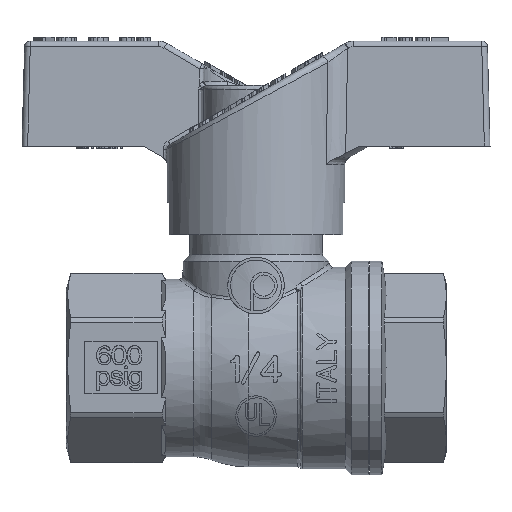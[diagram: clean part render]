
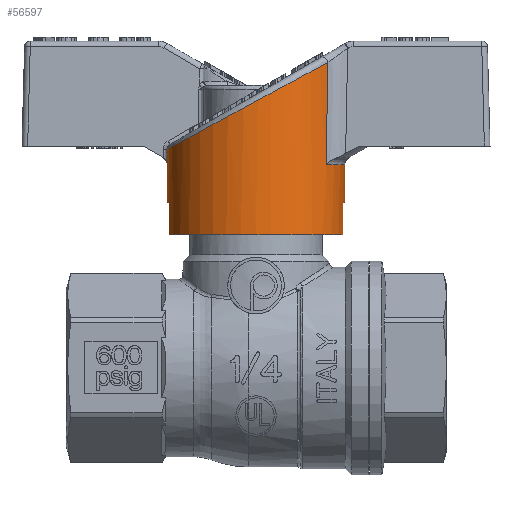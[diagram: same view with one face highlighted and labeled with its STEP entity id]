
A CAD part, top view. The second image highlights one B-rep face of the part: STEP entity #56597.
In plain terms, the highlighted cylindrical face has radius 11 mm (diameter 22 mm), a partial arc.
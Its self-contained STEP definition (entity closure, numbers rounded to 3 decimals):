
#45747=CARTESIAN_POINT('',(0.,8.691,0.));
#45748=DIRECTION('',(0.,-1.,0.));
#45749=DIRECTION('',(-1.,0.,0.));
#45750=AXIS2_PLACEMENT_3D('',#45747,#45748,#45749);
#45752=DIRECTION('',(0.,-1.,0.));
#45753=VECTOR('',#45752,4.691);
#45754=CARTESIAN_POINT('',(-11.,8.691,0.));
#45755=LINE('',#45754,#45753);
#45756=CARTESIAN_POINT('',(0.,4.,0.));
#45757=DIRECTION('',(0.,1.,0.));
#45758=DIRECTION('',(-0.979,0.,-0.205));
#45759=AXIS2_PLACEMENT_3D('',#45756,#45757,#45758);
#45761=DIRECTION('',(0.,1.,0.));
#45762=VECTOR('',#45761,4.);
#45763=CARTESIAN_POINT('',(-10.767,0.,-2.253));
#45764=LINE('',#45763,#45762);
#45765=DIRECTION('',(0.,1.,0.));
#45766=VECTOR('',#45765,4.);
#45767=CARTESIAN_POINT('',(10.767,0.,-2.25));
#45768=LINE('',#45767,#45766);
#45769=CARTESIAN_POINT('',(0.,4.,0.));
#45770=DIRECTION('',(0.,1.,0.));
#45771=DIRECTION('',(1.,0.,0.));
#45772=AXIS2_PLACEMENT_3D('',#45769,#45770,#45771);
#45774=DIRECTION('',(0.,-1.,0.));
#45775=VECTOR('',#45774,4.691);
#45776=CARTESIAN_POINT('',(11.,8.691,0.));
#45777=LINE('',#45776,#45775);
#45778=CARTESIAN_POINT('',(0.,8.691,0.));
#45779=DIRECTION('',(0.,-1.,0.));
#45780=DIRECTION('',(0.999,0.,-0.049));
#45781=AXIS2_PLACEMENT_3D('',#45778,#45779,#45780);
#45783=CARTESIAN_POINT('',(10.989,10.602,
-0.488));
#45784=CARTESIAN_POINT('',(10.975,10.609,
-0.804));
#45785=CARTESIAN_POINT('',(10.92,10.639,
-1.42));
#45786=CARTESIAN_POINT('',(10.774,10.718,
-2.274));
#45787=CARTESIAN_POINT('',(10.563,10.832,
-3.112));
#45788=CARTESIAN_POINT('',(10.284,10.983,
-3.935));
#45789=CARTESIAN_POINT('',(9.944,11.167,
-4.729));
#45790=CARTESIAN_POINT('',(9.549,11.38,
-5.483));
#45791=CARTESIAN_POINT('',(9.102,11.622,
-6.196));
#45792=CARTESIAN_POINT('',(8.596,11.896,
-6.882));
#45793=CARTESIAN_POINT('',(8.008,12.213,
-7.56));
#45794=CARTESIAN_POINT('',(7.308,12.592,-8.243));
#45795=CARTESIAN_POINT('',(6.458,13.052,
-8.93));
#45796=CARTESIAN_POINT('',(5.426,13.609,
-9.598));
#45797=CARTESIAN_POINT('',(4.18,14.283,
-10.21));
#45798=CARTESIAN_POINT('',(2.722,15.071,
-10.697));
#45799=CARTESIAN_POINT('',(1.141,15.926,
-10.98));
#45800=CARTESIAN_POINT('',(-0.425,16.772,
-11.027));
#45801=CARTESIAN_POINT('',(-1.882,17.56,
-10.868));
#45802=CARTESIAN_POINT('',(-3.179,18.261,
-10.556));
#45803=CARTESIAN_POINT('',(-4.307,18.871,
-10.143));
#45804=CARTESIAN_POINT('',(-5.282,19.398,
-9.667));
#45805=CARTESIAN_POINT('',(-6.131,19.857,
-9.149));
#45806=CARTESIAN_POINT('',(-6.86,20.251,
-8.613));
#45807=CARTESIAN_POINT('',(-7.525,20.611,
-8.04));
#45808=CARTESIAN_POINT('',(-8.193,20.972,
-7.364));
#45809=CARTESIAN_POINT('',(-8.665,21.227,-6.787));
#45810=CARTESIAN_POINT('',(-8.899,21.353,
-6.466));
#45850=CARTESIAN_POINT('',(0.,0.,0.));
#45851=DIRECTION('',(0.,-1.,0.));
#45852=DIRECTION('',(-0.979,0.,-0.205));
#45853=AXIS2_PLACEMENT_3D('',#45850,#45851,#45852);
#47749=CARTESIAN_POINT('',(-8.703,8.691,
-6.727));
#47750=CARTESIAN_POINT('',(-8.726,10.082,
-6.698));
#47751=CARTESIAN_POINT('',(-8.769,12.875,
-6.641));
#47752=CARTESIAN_POINT('',(-8.835,17.095,
-6.554));
#47753=CARTESIAN_POINT('',(-8.877,19.93,
-6.496));
#47754=CARTESIAN_POINT('',(-8.899,21.353,
-6.466));
#48905=CARTESIAN_POINT('',(10.989,10.602,
-0.488));
#48906=CARTESIAN_POINT('',(10.989,10.389,
-0.494));
#48907=CARTESIAN_POINT('',(10.988,9.964,
-0.504));
#48908=CARTESIAN_POINT('',(10.988,9.327,
-0.52));
#48909=CARTESIAN_POINT('',(10.987,8.903,
-0.531));
#48910=CARTESIAN_POINT('',(10.987,8.691,
-0.536));
#54862=CARTESIAN_POINT('',(-11.,4.,0.));
#54864=VERTEX_POINT('',#54862);
#54875=CARTESIAN_POINT('',(10.767,0.,-2.25));
#54877=VERTEX_POINT('',#54875);
#54878=CARTESIAN_POINT('',(-10.767,0.,-2.253));
#54880=VERTEX_POINT('',#54878);
#54884=CARTESIAN_POINT('',(10.767,4.,-2.25));
#54885=VERTEX_POINT('',#54884);
#54886=CARTESIAN_POINT('',(-10.767,4.,-2.253));
#54887=VERTEX_POINT('',#54886);
#54932=CARTESIAN_POINT('',(11.,4.,0.));
#54933=VERTEX_POINT('',#54932);
#54939=CARTESIAN_POINT('',(-8.899,21.353,
-6.466));
#54941=VERTEX_POINT('',#54939);
#54965=VERTEX_POINT('',#45783);
#56500=CARTESIAN_POINT('',(-11.,8.691,0.));
#56501=CARTESIAN_POINT('',(-8.703,8.691,
-6.727));
#56502=VERTEX_POINT('',#56500);
#56503=VERTEX_POINT('',#56501);
#56508=CARTESIAN_POINT('',(11.,8.691,0.));
#56510=VERTEX_POINT('',#56508);
#56514=CARTESIAN_POINT('',(10.987,8.691,
-0.536));
#56515=VERTEX_POINT('',#56514);
#56569=CARTESIAN_POINT('',(0.,-0.925,0.));
#56570=DIRECTION('',(0.,1.,0.));
#56571=DIRECTION('',(1.,0.,0.));
#56572=AXIS2_PLACEMENT_3D('',#56569,#56570,#56571);
#56573=CYLINDRICAL_SURFACE('',#56572,11.);
#56574=ORIENTED_EDGE('',*,*,#56556,.F.);
#56575=ORIENTED_EDGE('',*,*,#56545,.T.);
#56577=ORIENTED_EDGE('',*,*,#56576,.F.);
#56579=ORIENTED_EDGE('',*,*,#56578,.F.);
#56581=ORIENTED_EDGE('',*,*,#56580,.T.);
#56583=ORIENTED_EDGE('',*,*,#56582,.T.);
#56585=ORIENTED_EDGE('',*,*,#56584,.F.);
#56586=ORIENTED_EDGE('',*,*,#56533,.F.);
#56588=ORIENTED_EDGE('',*,*,#56587,.F.);
#56590=ORIENTED_EDGE('',*,*,#56589,.F.);
#56592=ORIENTED_EDGE('',*,*,#56591,.T.);
#56594=ORIENTED_EDGE('',*,*,#56593,.F.);
#56595=EDGE_LOOP('',(#56574,#56575,#56577,#56579,#56581,#56583,#56585,#56586,
#56588,#56590,#56592,#56594));
#56596=FACE_OUTER_BOUND('',#56595,.F.);
#56597=ADVANCED_FACE('',(#56596),#56573,.T.);
#45751=CIRCLE('',#45750,11.);
#45760=CIRCLE('',#45759,11.);
#45773=CIRCLE('',#45772,11.);
#45782=CIRCLE('',#45781,11.);
#45811=B_SPLINE_CURVE_WITH_KNOTS('',3,(#45783,#45784,#45785,#45786,#45787,
#45788,#45789,#45790,#45791,#45792,#45793,#45794,#45795,#45796,#45797,#45798,
#45799,#45800,#45801,#45802,#45803,#45804,#45805,#45806,#45807,#45808,#45809,
#45810),.UNSPECIFIED.,.F.,.F.,(4,1,1,1,1,1,1,1,1,1,1,1,1,1,1,1,1,1,1,1,1,1,1,1,
1,4),(0.,0.04,0.08,0.12,0.16,0.2,0.24,0.28,0.32,0.36,0.4,
0.44,0.48,0.52,0.56,0.6,0.64,0.68,0.72,0.76,0.8,0.84,
0.88,0.92,0.96,1.),.UNSPECIFIED.);
#45854=CIRCLE('',#45853,11.);
#47755=B_SPLINE_CURVE_WITH_KNOTS('',3,(#47749,#47750,#47751,#47752,#47753,
#47754),.UNSPECIFIED.,.F.,.F.,(4,1,1,4),(0.,0.333,
0.667,1.),.UNSPECIFIED.);
#48911=B_SPLINE_CURVE_WITH_KNOTS('',3,(#48905,#48906,#48907,#48908,#48909,
#48910),.UNSPECIFIED.,.F.,.F.,(4,1,1,4),(0.,0.333,
0.667,1.),.UNSPECIFIED.);
#56533=EDGE_CURVE('',#56510,#54933,#45777,.T.);
#56545=EDGE_CURVE('',#56502,#54864,#45755,.T.);
#56556=EDGE_CURVE('',#56502,#56503,#45751,.T.);
#56576=EDGE_CURVE('',#54887,#54864,#45760,.T.);
#56578=EDGE_CURVE('',#54880,#54887,#45764,.T.);
#56580=EDGE_CURVE('',#54880,#54877,#45854,.T.);
#56582=EDGE_CURVE('',#54877,#54885,#45768,.T.);
#56584=EDGE_CURVE('',#54933,#54885,#45773,.T.);
#56587=EDGE_CURVE('',#56515,#56510,#45782,.T.);
#56589=EDGE_CURVE('',#54965,#56515,#48911,.T.);
#56591=EDGE_CURVE('',#54965,#54941,#45811,.T.);
#56593=EDGE_CURVE('',#56503,#54941,#47755,.T.);
